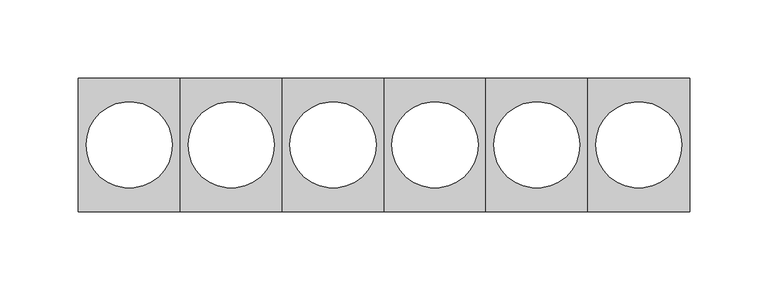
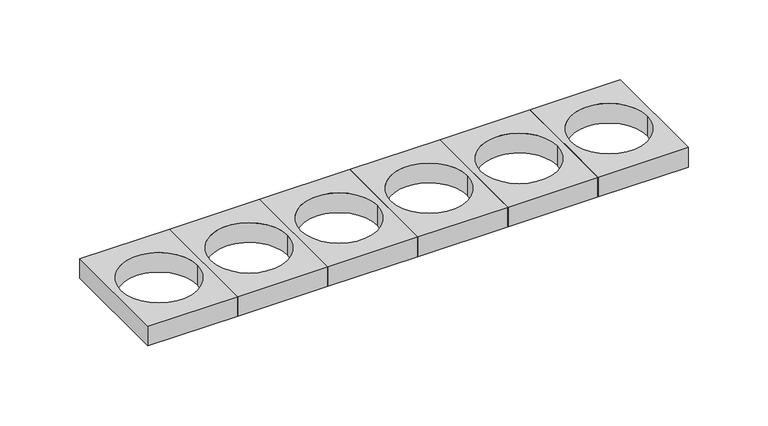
"""IFC4 building model written with IfcOpenShell, lengths in millimetres: duct fitting geometry, Суппорт для модульного оборудования - 6 модулей - для кабель-каналов DLP с шириной крышки 130 мм - белый : 85мм."""

from ifc_helpers import new_model, si_unit, point, frame_2d, origin, origin_with_axes, origin_2d, place, context, project, spatial, polyline, circle_curve, trimmed, segment, composite_curve, outline, extrude, source, transform, mapped, element, save


def duct_fitting_a14ef6e3(model_context):
    return source(origin(), model_context, "Body", "SweptSolid", [
        extrude(outline(polyline([(357.5, 42.5), (357.5, -42.5), (292.5, -42.5), (292.5, 42.5), (357.5, 42.5)]), holes=[composite_curve([segment(trimmed(circle_curve(frame_2d((325.0, 0.0)), 27.5), [point((297.5, 0.0))], [point((352.5, 0.0))], True, "CARTESIAN"), True, "CONTINUOUS"), segment(trimmed(circle_curve(frame_2d((325.0, 0.0)), 27.5), [point((352.5, 0.0))], [point((297.5, 0.0))], True, "CARTESIAN"), True, "CONTINUOUS")], self_intersect=False)]), origin_with_axes(), (0.0, 0.0, 1.0), 15.0),
        extrude(outline(polyline([(292.5, 42.5), (292.5, -42.5), (227.5, -42.5), (227.5, 42.5), (292.5, 42.5)]), holes=[composite_curve([segment(trimmed(circle_curve(frame_2d((260.0, 0.0)), 27.5), [point((232.5, 0.0))], [point((287.5, 0.0))], True, "CARTESIAN"), True, "CONTINUOUS"), segment(trimmed(circle_curve(frame_2d((260.0, 0.0)), 27.5), [point((287.5, 0.0))], [point((232.5, 0.0))], True, "CARTESIAN"), True, "CONTINUOUS")], self_intersect=False)]), origin_with_axes(), (0.0, 0.0, 1.0), 15.0),
        extrude(outline(polyline([(227.5, 42.5), (227.5, -42.5), (162.5, -42.5), (162.5, 42.5), (227.5, 42.5)]), holes=[composite_curve([segment(trimmed(circle_curve(frame_2d((195.0, 0.0)), 27.5), [point((167.5, 0.0))], [point((222.5, 0.0))], True, "CARTESIAN"), True, "CONTINUOUS"), segment(trimmed(circle_curve(frame_2d((195.0, 0.0)), 27.5), [point((222.5, 0.0))], [point((167.5, 0.0))], True, "CARTESIAN"), True, "CONTINUOUS")], self_intersect=False)]), origin_with_axes(), (0.0, 0.0, 1.0), 15.0),
        extrude(outline(polyline([(162.5, 42.5), (162.5, -42.5), (97.5, -42.5), (97.5, 42.5), (162.5, 42.5)]), holes=[composite_curve([segment(trimmed(circle_curve(frame_2d((130.0, 0.0)), 27.5), [point((102.5, 0.0))], [point((157.5, 0.0))], True, "CARTESIAN"), True, "CONTINUOUS"), segment(trimmed(circle_curve(frame_2d((130.0, 0.0)), 27.5), [point((157.5, 0.0))], [point((102.5, 0.0))], True, "CARTESIAN"), True, "CONTINUOUS")], self_intersect=False)]), origin_with_axes(), (0.0, 0.0, 1.0), 15.0),
        extrude(outline(polyline([(97.5, 42.5), (97.5, -42.5), (32.5, -42.5), (32.5, 42.5), (97.5, 42.5)]), holes=[composite_curve([segment(trimmed(circle_curve(frame_2d((65.0, 0.0)), 27.5), [point((37.5, 0.0))], [point((92.5, 0.0))], True, "CARTESIAN"), True, "CONTINUOUS"), segment(trimmed(circle_curve(frame_2d((65.0, 0.0)), 27.5), [point((92.5, 0.0))], [point((37.5, 0.0))], True, "CARTESIAN"), True, "CONTINUOUS")], self_intersect=False)]), origin_with_axes(), (0.0, 0.0, 1.0), 15.0),
        extrude(outline(polyline([(32.5, 42.5), (32.5, -42.5), (-32.5, -42.5), (-32.5, 42.5), (32.5, 42.5)]), holes=[composite_curve([segment(trimmed(circle_curve(origin_2d(), 27.5), [point((-27.5, 0.0))], [point((27.5, 0.0))], True, "CARTESIAN"), True, "CONTINUOUS"), segment(trimmed(circle_curve(origin_2d(), 27.5), [point((27.5, 0.0))], [point((-27.5, 0.0))], True, "CARTESIAN"), True, "CONTINUOUS")], self_intersect=False)]), origin_with_axes(), (0.0, 0.0, 1.0), 15.0),
    ])


if __name__ == "__main__":
    model = new_model("IFC4")
    model_context = context("Model", 3, world=origin())
    ifc_project = project(units=[si_unit("LENGTHUNIT", "METRE", prefix="MILLI")], contexts=[model_context])
    site = spatial("IfcSite", under=ifc_project)
    building = spatial("IfcBuilding", under=site)
    placement = place(None, origin())
    duct_fitting_shape = duct_fitting_a14ef6e3(model_context)
    element("IfcDuctFitting", 1, ObjectType="Суппорт для модульного оборудования - 6 модулей - для кабель-каналов DLP с шириной крышки 130 мм - белый : 85мм", at=placement, inside=building, context=model_context, shape_type="MappedRepresentation", body=[
        mapped(duct_fitting_shape, transform((0.0, 0.0, 0.0), x_axis=(1.0, 0.0, 0.0), y_axis=(0.0, 1.0, 0.0), z_axis=(0.0, 0.0, 1.0))),
    ])
    save(model, "model.ifc")
